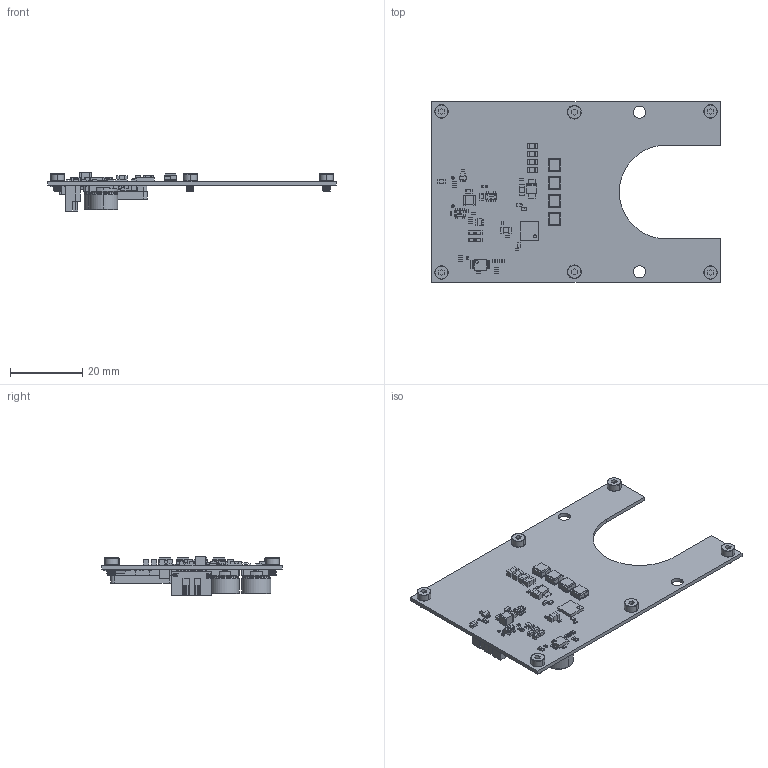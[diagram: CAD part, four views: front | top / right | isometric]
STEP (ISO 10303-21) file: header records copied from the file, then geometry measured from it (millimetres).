
FILE_DESCRIPTION(('Open CASCADE Model'),'2;1');
FILE_NAME('Open CASCADE Shape Model','2016-11-10T19:45:32',('Author'),( 'Open CASCADE'),'Open CASCADE STEP processor 6.8','Open CASCADE 6.8' ,'Unknown');
FILE_SCHEMA(('AUTOMOTIVE_DESIGN { 1 0 10303 214 1 1 1 1 }'));
Length unit declared in the file: millimetre
Products named in the file (198): PCB; BoardIL; V8IL; 1314976024; Extruded; 1314976568; 1313418080; R22IL; 954091808; 954091944; C4IL; 954090584; 954090720; 954090856; V6IL; PowerDI-5; User_Library-PowerDI-5_1_1; User_Library-PowerDI-5_2_1; User_Library-PowerDI-5_3_1; User_Library-PowerDI-5_4_1; C3IL; V4IL; 1314972760; 1314972896; 1314970720; 1314970856; 1314970992; 1314971128; 1314971264; 1314971400; 1314971536; 1314971672; 1314971808; 1314971944; 1314972080; V3IL; P2IL; SW3dPS-M2-A4-socket-cap-screw-din_912; P1IL; P3IL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
Assembly tree (451 placements, depth 4):
  PCB
    BoardIL
    V8IL
      1314976024  x2
        Extruded
      1314976568
        Extruded
      1313418080
        Extruded
    R22IL
      954091808
        Extruded
      954091944  x2
        Extruded
    C4IL
      954090584
        Extruded
      954090720
        Extruded
      954090856
        Extruded
    V6IL
      PowerDI-5
        User_Library-PowerDI-5_1_1
        User_Library-PowerDI-5_2_1
        User_Library-PowerDI-5_3_1
        User_Library-PowerDI-5_4_1
    C3IL
      954090856
        Extruded
      954090720
        Extruded
      954090584
        Extruded
    V4IL
      1314972760
        Extruded
      1314972896
        Extruded
      1314970720
        Extruded
      1314970856
        Extruded
      1314970992
        Extruded
      1314971128
        Extruded
      1314971264
        Extruded
      1314971400
        Extruded
      1314971536
        Extruded
      1314971672
        Extruded
      1314971808
        Extruded
      1314971944  x10
        Extruded
      1314972080
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Bounding box: 80 x 50 x 11.04 mm (x, y, z)
Volume: 6454.9 mm3; surface area: 12147.2 mm2
Topology: 342 solids, 342 shells, 5039 faces, 12756 edges, 8432 vertices
Faces by surface type: plane 3958, cylinder 820, bspline 211, torus 24, cone 16, sphere 10
Full cylindrical faces by diameter (mm): 0.8 x4, 2.4 x4, 3.4 x4
Entity records: 275903 total; most frequent: CARTESIAN_POINT 119054, DIRECTION 26609, LINE 17109, VECTOR 17109, ORIENTED_EDGE 15518, PCURVE 15518, DEFINITIONAL_REPRESENTATION 15518, EDGE_CURVE 7759
